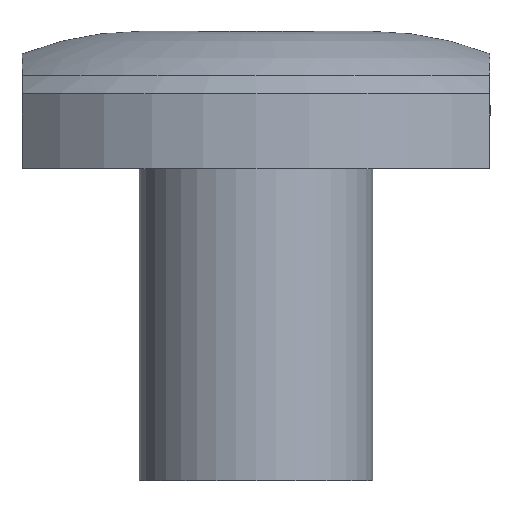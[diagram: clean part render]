
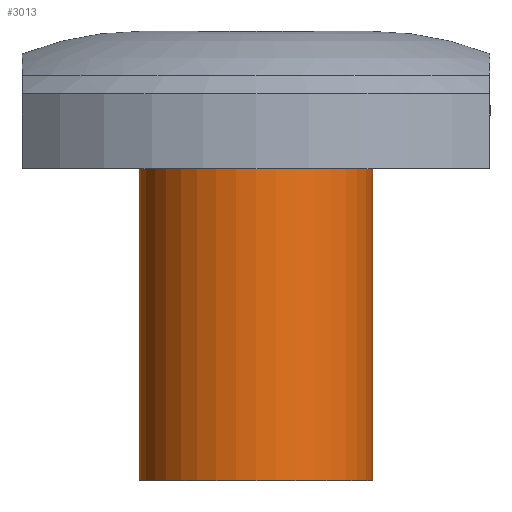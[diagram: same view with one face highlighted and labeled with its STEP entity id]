
A CAD part, front view. The second image highlights one B-rep face of the part: STEP entity #3013.
In plain terms, the highlighted cylindrical face has radius 7.5 mm (diameter 15 mm), a partial arc.
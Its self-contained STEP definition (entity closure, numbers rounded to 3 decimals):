
#13 = DIRECTION ( 'NONE',  ( 0., 0., 1. ) ) ;
#129 = LINE ( 'NONE', #4539, #3817 ) ;
#161 = CARTESIAN_POINT ( 'NONE',  ( 0., 0., 20. ) ) ;
#329 = DIRECTION ( 'NONE',  ( 0., 0., -1. ) ) ;
#609 = AXIS2_PLACEMENT_3D ( 'NONE', #1979, #3466, #3853 ) ;
#975 = CARTESIAN_POINT ( 'NONE',  ( 7.5, 0., 0. ) ) ;
#1169 = CYLINDRICAL_SURFACE ( 'NONE', #3041, 7.5 ) ;
#1175 = CARTESIAN_POINT ( 'NONE',  ( 7.5, 0., 20. ) ) ;
#1377 = VERTEX_POINT ( 'NONE', #4662 ) ;
#1403 = ORIENTED_EDGE ( 'NONE', *, *, #4183, .F. ) ;
#1464 = CIRCLE ( 'NONE', #609, 7.5 ) ;
#1700 = CARTESIAN_POINT ( 'NONE',  ( 7.5, 0., 20. ) ) ;
#1745 = LINE ( 'NONE', #1700, #2428 ) ;
#1979 = CARTESIAN_POINT ( 'NONE',  ( 0., 0., 0. ) ) ;
#2037 = AXIS2_PLACEMENT_3D ( 'NONE', #161, #13, #4494 ) ;
#2091 = DIRECTION ( 'NONE',  ( 0., 0., -1. ) ) ;
#2131 = EDGE_CURVE ( 'NONE', #3630, #3417, #1464, .T. ) ;
#2428 = VECTOR ( 'NONE', #2091, 1000. ) ;
#2748 = DIRECTION ( 'NONE',  ( 0., 0., -1. ) ) ;
#2988 = EDGE_LOOP ( 'NONE', ( #3989, #1403, #4593, #4176 ) ) ;
#3013 = ADVANCED_FACE ( 'NONE', ( #3032 ), #1169, .T. ) ;
#3032 = FACE_OUTER_BOUND ( 'NONE', #2988, .T. ) ;
#3041 = AXIS2_PLACEMENT_3D ( 'NONE', #3374, #329, #3790 ) ;
#3374 = CARTESIAN_POINT ( 'NONE',  ( 0., 0., 20. ) ) ;
#3417 = VERTEX_POINT ( 'NONE', #975 ) ;
#3466 = DIRECTION ( 'NONE',  ( 0., 0., 1. ) ) ;
#3630 = VERTEX_POINT ( 'NONE', #3870 ) ;
#3790 = DIRECTION ( 'NONE',  ( -1., 0., 0. ) ) ;
#3817 = VECTOR ( 'NONE', #2748, 1000. ) ;
#3853 = DIRECTION ( 'NONE',  ( 1., 0., 0. ) ) ;
#3870 = CARTESIAN_POINT ( 'NONE',  ( -7.5, 0., 0. ) ) ;
#3989 = ORIENTED_EDGE ( 'NONE', *, *, #4303, .F. ) ;
#4134 = CIRCLE ( 'NONE', #2037, 7.5 ) ;
#4176 = ORIENTED_EDGE ( 'NONE', *, *, #2131, .T. ) ;
#4183 = EDGE_CURVE ( 'NONE', #1377, #4691, #4134, .T. ) ;
#4303 = EDGE_CURVE ( 'NONE', #4691, #3417, #1745, .T. ) ;
#4469 = EDGE_CURVE ( 'NONE', #1377, #3630, #129, .T. ) ;
#4494 = DIRECTION ( 'NONE',  ( 1., 0., 0. ) ) ;
#4539 = CARTESIAN_POINT ( 'NONE',  ( -7.5, 0., 20. ) ) ;
#4593 = ORIENTED_EDGE ( 'NONE', *, *, #4469, .T. ) ;
#4662 = CARTESIAN_POINT ( 'NONE',  ( -7.5, 0., 20. ) ) ;
#4691 = VERTEX_POINT ( 'NONE', #1175 ) ;
